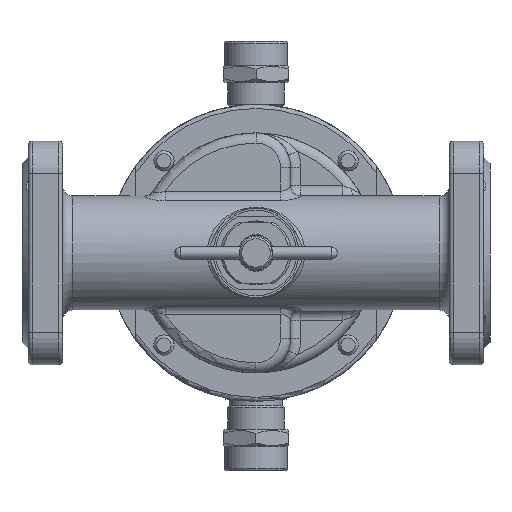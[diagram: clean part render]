
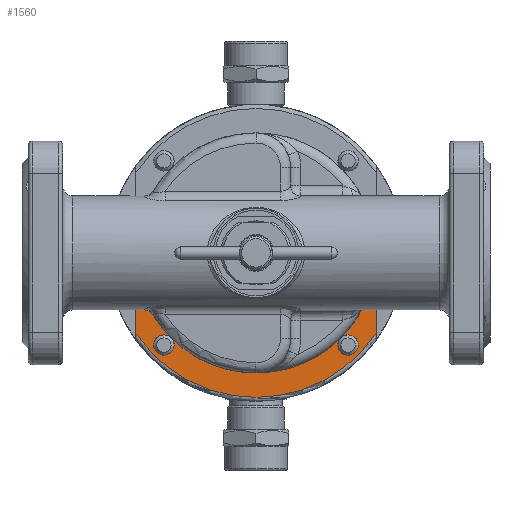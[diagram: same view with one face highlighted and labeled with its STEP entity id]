
A CAD part, front view. The second image highlights one B-rep face of the part: STEP entity #1560.
In plain terms, the highlighted planar face has unit normal (0, -1, 0).
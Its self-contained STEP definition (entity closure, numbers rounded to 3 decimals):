
#1560=ADVANCED_FACE('',(#16779),#16781,.F.);
#16779=FACE_OUTER_BOUND('',#16780,.T.);
#16780=EDGE_LOOP('',(#29197,#29198,#29199,#29200,#29201,#29202,#29203,#29204,#29205,
#29206));
#16781=PLANE('',#16782);
#16782=AXIS2_PLACEMENT_3D('',#16783,#16784,#16785);
#16783=CARTESIAN_POINT('',(0.,39.5,0.));
#16784=DIRECTION('',(0.,1.,0.));
#16785=DIRECTION('',(-1.,0.,0.));
#29197=ORIENTED_EDGE('',*,*,#36622,.F.);
#29198=ORIENTED_EDGE('',*,*,#36623,.F.);
#29199=ORIENTED_EDGE('',*,*,#36624,.F.);
#29200=ORIENTED_EDGE('',*,*,#36573,.F.);
#29201=ORIENTED_EDGE('',*,*,#36570,.F.);
#29202=ORIENTED_EDGE('',*,*,#36568,.F.);
#29203=ORIENTED_EDGE('',*,*,#36625,.F.);
#29204=ORIENTED_EDGE('',*,*,#36626,.F.);
#29205=ORIENTED_EDGE('',*,*,#36627,.F.);
#29206=ORIENTED_EDGE('',*,*,#36628,.F.);
#36568=EDGE_CURVE('',#44150,#44152,#44153,.T.);
#36570=EDGE_CURVE('',#44152,#44155,#44156,.T.);
#36573=EDGE_CURVE('',#44155,#44159,#44160,.T.);
#36622=EDGE_CURVE('',#44238,#44239,#44240,.T.);
#36623=EDGE_CURVE('',#44239,#44238,#44241,.T.);
#36624=EDGE_CURVE('',#44159,#44239,#44242,.T.);
#36625=EDGE_CURVE('',#44243,#44150,#44244,.T.);
#36626=EDGE_CURVE('',#44245,#44243,#44246,.T.);
#36627=EDGE_CURVE('',#44243,#44245,#44247,.T.);
#36628=EDGE_CURVE('',#44239,#44243,#44248,.T.);
#44150=VERTEX_POINT('',#66244);
#44152=VERTEX_POINT('',#66248);
#44153=LINE('',#66249,#66250);
#44155=VERTEX_POINT('',#66307);
#44156=CIRCLE('',#66308,71.);
#44159=VERTEX_POINT('',#66370);
#44160=LINE('',#66371,#66372);
#44238=VERTEX_POINT('',#67059);
#44239=VERTEX_POINT('',#67060);
#44240=CIRCLE('',#67061,5.);
#44241=CIRCLE('',#67065,5.);
#44242=CIRCLE('',#67069,59.);
#44243=VERTEX_POINT('',#67073);
#44244=CIRCLE('',#67074,59.);
#44245=VERTEX_POINT('',#67078);
#44246=CIRCLE('',#67079,5.);
#44247=CIRCLE('',#67083,5.);
#44248=CIRCLE('',#67087,59.);
#66244=CARTESIAN_POINT('',(59.,39.5,0.));
#66248=CARTESIAN_POINT('',(59.,39.5,-39.497));
#66249=CARTESIAN_POINT('',(59.,39.5,0.));
#66250=VECTOR('',#66251,1.);
#66251=DIRECTION('',(0.,0.,-1.));
#66307=CARTESIAN_POINT('',(-59.,39.5,-39.497));
#66308=AXIS2_PLACEMENT_3D('',#66309,#66310,#66311);
#66309=CARTESIAN_POINT('',(0.,39.5,0.));
#66310=DIRECTION('',(0.,1.,0.));
#66311=DIRECTION('',(0.831,0.,-0.556));
#66370=CARTESIAN_POINT('',(-59.,39.5,0.));
#66371=CARTESIAN_POINT('',(-59.,39.5,-39.497));
#66372=VECTOR('',#66373,1.);
#66373=DIRECTION('',(0.,0.,1.));
#67059=CARTESIAN_POINT('',(-45.255,39.5,-50.255));
#67060=CARTESIAN_POINT('',(-41.719,39.5,-41.719));
#67061=AXIS2_PLACEMENT_3D('',#67062,#67063,#67064);
#67062=CARTESIAN_POINT('',(-45.255,39.5,-45.255));
#67063=DIRECTION('',(0.,-1.,0.));
#67064=DIRECTION('',(0.,0.,-1.));
#67065=AXIS2_PLACEMENT_3D('',#67066,#67067,#67068);
#67066=CARTESIAN_POINT('',(-45.255,39.5,-45.255));
#67067=DIRECTION('',(0.,-1.,0.));
#67068=DIRECTION('',(0.707,0.,0.707));
#67069=AXIS2_PLACEMENT_3D('',#67070,#67071,#67072);
#67070=CARTESIAN_POINT('',(0.,39.5,0.));
#67071=DIRECTION('',(0.,-1.,0.));
#67072=DIRECTION('',(-1.,0.,0.));
#67073=CARTESIAN_POINT('',(41.719,39.5,-41.719));
#67074=AXIS2_PLACEMENT_3D('',#67075,#67076,#67077);
#67075=CARTESIAN_POINT('',(0.,39.5,0.));
#67076=DIRECTION('',(0.,-1.,0.));
#67077=DIRECTION('',(0.707,0.,-0.707));
#67078=CARTESIAN_POINT('',(50.255,39.5,-45.255));
#67079=AXIS2_PLACEMENT_3D('',#67080,#67081,#67082);
#67080=CARTESIAN_POINT('',(45.255,39.5,-45.255));
#67081=DIRECTION('',(0.,-1.,0.));
#67082=DIRECTION('',(1.,0.,0.));
#67083=AXIS2_PLACEMENT_3D('',#67084,#67085,#67086);
#67084=CARTESIAN_POINT('',(45.255,39.5,-45.255));
#67085=DIRECTION('',(0.,-1.,0.));
#67086=DIRECTION('',(-0.707,0.,0.707));
#67087=AXIS2_PLACEMENT_3D('',#67088,#67089,#67090);
#67088=CARTESIAN_POINT('',(0.,39.5,0.));
#67089=DIRECTION('',(0.,-1.,0.));
#67090=DIRECTION('',(-0.707,0.,-0.707));
